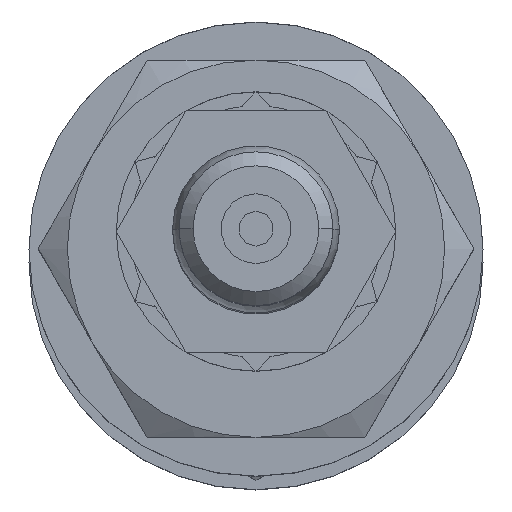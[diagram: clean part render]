
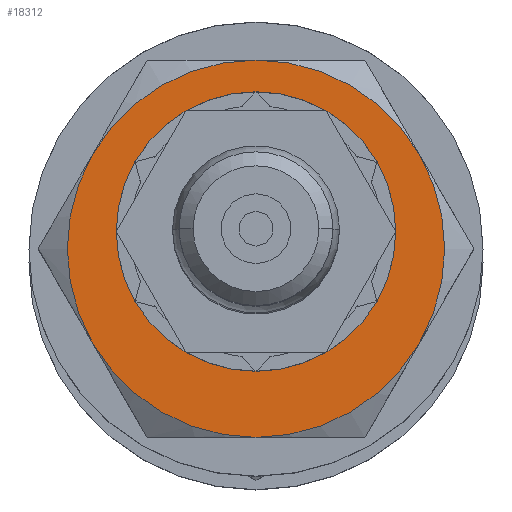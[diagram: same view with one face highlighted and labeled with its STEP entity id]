
A CAD part, top view. The second image highlights one B-rep face of the part: STEP entity #18312.
In plain terms, the highlighted planar face has unit normal (0, 0, 1).
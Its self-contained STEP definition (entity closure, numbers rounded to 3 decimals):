
#105 = DIRECTION ( 'NONE',  ( 0., 0., -1. ) ) ;
#661 = VERTEX_POINT ( 'NONE', #19536 ) ;
#696 = ORIENTED_EDGE ( 'NONE', *, *, #7031, .F. ) ;
#792 = DIRECTION ( 'NONE',  ( 0., 0., -1. ) ) ;
#1100 = VERTEX_POINT ( 'NONE', #6494 ) ;
#1408 = CARTESIAN_POINT ( 'NONE',  ( 0.054, 0.009, 394.6 ) ) ;
#2774 = AXIS2_PLACEMENT_3D ( 'NONE', #1408, #10876, #8666 ) ;
#3162 = EDGE_CURVE ( 'NONE', #13126, #1100, #16541, .T. ) ;
#3218 = CARTESIAN_POINT ( 'NONE',  ( 0.054, 0.009, 394.6 ) ) ;
#3412 = EDGE_CURVE ( 'NONE', #9785, #29955, #20833, .T. ) ;
#3476 = CIRCLE ( 'NONE', #20419, 2.7 ) ;
#4342 = EDGE_CURVE ( 'NONE', #29955, #17065, #9839, .T. ) ;
#4345 = ORIENTED_EDGE ( 'NONE', *, *, #4342, .F. ) ;
#4707 = EDGE_LOOP ( 'NONE', ( #6371, #10982 ) ) ;
#4769 = CARTESIAN_POINT ( 'NONE',  ( 0.054, 0.009, 394.6 ) ) ;
#4783 = AXIS2_PLACEMENT_3D ( 'NONE', #22020, #12810, #8147 ) ;
#5100 = ORIENTED_EDGE ( 'NONE', *, *, #3162, .F. ) ;
#5564 = CARTESIAN_POINT ( 'NONE',  ( 0.054, 2.709, 394.6 ) ) ;
#5634 = EDGE_LOOP ( 'NONE', ( #4345, #18800, #696, #5100, #18775, #17731 ) ) ;
#5744 = PLANE ( 'NONE',  #4783 ) ;
#6371 = ORIENTED_EDGE ( 'NONE', *, *, #16372, .T. ) ;
#6494 = CARTESIAN_POINT ( 'NONE',  ( -2.284, -1.341, 394.6 ) ) ;
#7031 = EDGE_CURVE ( 'NONE', #1100, #9785, #3476, .T. ) ;
#7406 = AXIS2_PLACEMENT_3D ( 'NONE', #3218, #792, #10052 ) ;
#7432 = CARTESIAN_POINT ( 'NONE',  ( -2.284, 1.359, 394.6 ) ) ;
#8147 = DIRECTION ( 'NONE',  ( 0., 1., 0. ) ) ;
#8666 = DIRECTION ( 'NONE',  ( 0., 1., 0. ) ) ;
#8763 = AXIS2_PLACEMENT_3D ( 'NONE', #12209, #9869, #14650 ) ;
#8833 = CARTESIAN_POINT ( 'NONE',  ( 2.393, 1.359, 394.6 ) ) ;
#9785 = VERTEX_POINT ( 'NONE', #7432 ) ;
#9839 = CIRCLE ( 'NONE', #8763, 2.7 ) ;
#9869 = DIRECTION ( 'NONE',  ( 0., 0., -1. ) ) ;
#10003 = EDGE_CURVE ( 'NONE', #17065, #29893, #21093, .T. ) ;
#10052 = DIRECTION ( 'NONE',  ( 0., 1., 0. ) ) ;
#10623 = VERTEX_POINT ( 'NONE', #21619 ) ;
#10876 = DIRECTION ( 'NONE',  ( 0., 0., -1. ) ) ;
#10982 = ORIENTED_EDGE ( 'NONE', *, *, #22347, .T. ) ;
#12209 = CARTESIAN_POINT ( 'NONE',  ( 0.054, 0.009, 394.6 ) ) ;
#12755 = AXIS2_PLACEMENT_3D ( 'NONE', #4769, #16319, #27967 ) ;
#12810 = DIRECTION ( 'NONE',  ( 0., 0., -1. ) ) ;
#12838 = DIRECTION ( 'NONE',  ( 0., 1., 0. ) ) ;
#13126 = VERTEX_POINT ( 'NONE', #13662 ) ;
#13255 = CARTESIAN_POINT ( 'NONE',  ( 0.054, 0.009, 394.6 ) ) ;
#13662 = CARTESIAN_POINT ( 'NONE',  ( 0.054, -2.691, 394.6 ) ) ;
#13756 = DIRECTION ( 'NONE',  ( 0., 1., 0. ) ) ;
#14194 = AXIS2_PLACEMENT_3D ( 'NONE', #22139, #26765, #12838 ) ;
#14650 = DIRECTION ( 'NONE',  ( 0., 1., 0. ) ) ;
#14839 = AXIS2_PLACEMENT_3D ( 'NONE', #13255, #20094, #22341 ) ;
#15349 = DIRECTION ( 'NONE',  ( 0., 0., -1. ) ) ;
#15667 = DIRECTION ( 'NONE',  ( 0., 1., 0. ) ) ;
#16319 = DIRECTION ( 'NONE',  ( 0., 0., -1. ) ) ;
#16372 = EDGE_CURVE ( 'NONE', #10623, #661, #29177, .T. ) ;
#16541 = CIRCLE ( 'NONE', #14194, 2.7 ) ;
#16812 = FACE_BOUND ( 'NONE', #4707, .T. ) ;
#17065 = VERTEX_POINT ( 'NONE', #8833 ) ;
#17653 = EDGE_CURVE ( 'NONE', #29893, #13126, #24116, .T. ) ;
#17731 = ORIENTED_EDGE ( 'NONE', *, *, #10003, .F. ) ;
#18312 = ADVANCED_FACE ( 'NONE', ( #16812, #21920 ), #5744, .F. ) ;
#18775 = ORIENTED_EDGE ( 'NONE', *, *, #17653, .F. ) ;
#18800 = ORIENTED_EDGE ( 'NONE', *, *, #3412, .F. ) ;
#19112 = CIRCLE ( 'NONE', #12755, 1.63 ) ;
#19536 = CARTESIAN_POINT ( 'NONE',  ( 0.054, 1.639, 394.6 ) ) ;
#20094 = DIRECTION ( 'NONE',  ( 0., 0., -1. ) ) ;
#20419 = AXIS2_PLACEMENT_3D ( 'NONE', #22399, #15349, #15667 ) ;
#20833 = CIRCLE ( 'NONE', #26644, 2.7 ) ;
#21093 = CIRCLE ( 'NONE', #7406, 2.7 ) ;
#21619 = CARTESIAN_POINT ( 'NONE',  ( 0.054, -1.62, 394.6 ) ) ;
#21920 = FACE_OUTER_BOUND ( 'NONE', #5634, .T. ) ;
#22020 = CARTESIAN_POINT ( 'NONE',  ( 0.054, 0.009, 394.6 ) ) ;
#22139 = CARTESIAN_POINT ( 'NONE',  ( 0.054, 0.009, 394.6 ) ) ;
#22341 = DIRECTION ( 'NONE',  ( 0., 1., 0. ) ) ;
#22347 = EDGE_CURVE ( 'NONE', #661, #10623, #19112, .T. ) ;
#22399 = CARTESIAN_POINT ( 'NONE',  ( 0.054, 0.009, 394.6 ) ) ;
#24116 = CIRCLE ( 'NONE', #14839, 2.7 ) ;
#26451 = CARTESIAN_POINT ( 'NONE',  ( 2.393, -1.341, 394.6 ) ) ;
#26644 = AXIS2_PLACEMENT_3D ( 'NONE', #27655, #105, #13756 ) ;
#26765 = DIRECTION ( 'NONE',  ( 0., 0., -1. ) ) ;
#27655 = CARTESIAN_POINT ( 'NONE',  ( 0.054, 0.009, 394.6 ) ) ;
#27967 = DIRECTION ( 'NONE',  ( 0., 1., 0. ) ) ;
#29177 = CIRCLE ( 'NONE', #2774, 1.63 ) ;
#29893 = VERTEX_POINT ( 'NONE', #26451 ) ;
#29955 = VERTEX_POINT ( 'NONE', #5564 ) ;
